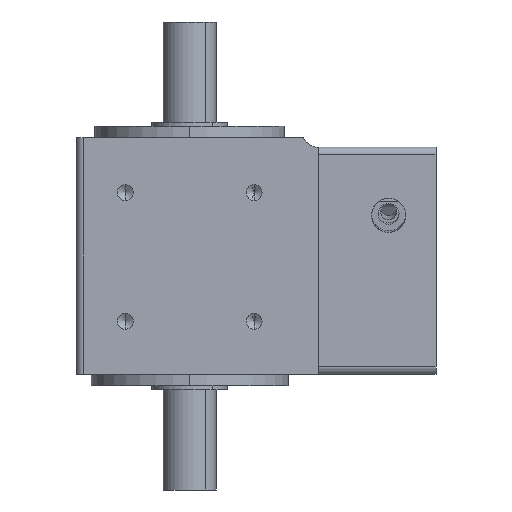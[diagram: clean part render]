
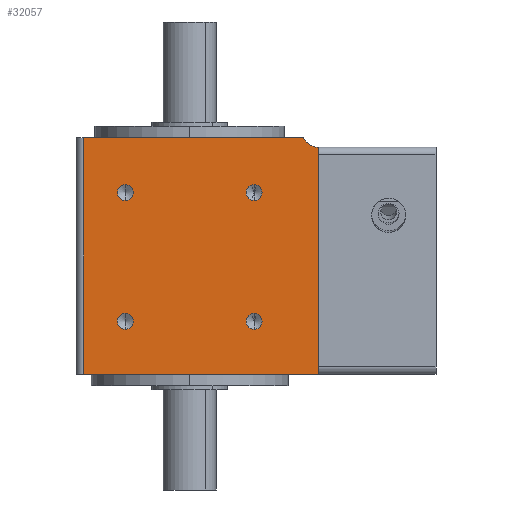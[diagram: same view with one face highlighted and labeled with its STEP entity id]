
A CAD part, left-side view. The second image highlights one B-rep face of the part: STEP entity #32057.
In plain terms, the highlighted planar face has unit normal (-1, 0, 0).
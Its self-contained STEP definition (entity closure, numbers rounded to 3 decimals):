
#348 = VERTEX_POINT ( 'NONE', #20655 ) ;
#402 = VERTEX_POINT ( 'NONE', #32576 ) ;
#962 = EDGE_CURVE ( 'NONE', #402, #20070, #8239, .T. ) ;
#1193 = AXIS2_PLACEMENT_3D ( 'NONE', #3548, #29157, #21533 ) ;
#1466 = CARTESIAN_POINT ( 'NONE',  ( -30., 19., 53.1 ) ) ;
#2154 = CIRCLE ( 'NONE', #29996, 2.1 ) ;
#2194 = AXIS2_PLACEMENT_3D ( 'NONE', #2747, #8307, #10788 ) ;
#2238 = CARTESIAN_POINT ( 'NONE',  ( -30., 30., 68.5 ) ) ;
#2747 = CARTESIAN_POINT ( 'NONE',  ( -30., 19., 51. ) ) ;
#2825 = EDGE_CURVE ( 'NONE', #3201, #402, #23136, .T. ) ;
#2901 = DIRECTION ( 'NONE',  ( -1., 0., 0. ) ) ;
#3201 = VERTEX_POINT ( 'NONE', #15580 ) ;
#3258 = CARTESIAN_POINT ( 'NONE',  ( -30., -32., 68.5 ) ) ;
#3548 = CARTESIAN_POINT ( 'NONE',  ( -30., -15., 51. ) ) ;
#3777 = CIRCLE ( 'NONE', #25892, 2.1 ) ;
#3857 = EDGE_LOOP ( 'NONE', ( #30196, #11687, #28612, #29146, #9713 ) ) ;
#4687 = CIRCLE ( 'NONE', #2194, 2.1 ) ;
#4966 = ORIENTED_EDGE ( 'NONE', *, *, #15903, .F. ) ;
#5030 = CARTESIAN_POINT ( 'NONE',  ( -30., 19., 17. ) ) ;
#5126 = CARTESIAN_POINT ( 'NONE',  ( -30., -15., 19.1 ) ) ;
#5142 = CIRCLE ( 'NONE', #27993, 2.1 ) ;
#5289 = DIRECTION ( 'NONE',  ( 0., 0., 1. ) ) ;
#5422 = EDGE_CURVE ( 'NONE', #6102, #20070, #7336, .T. ) ;
#6102 = VERTEX_POINT ( 'NONE', #20924 ) ;
#6581 = EDGE_CURVE ( 'NONE', #29265, #28868, #16638, .T. ) ;
#6787 = FACE_BOUND ( 'NONE', #15881, .T. ) ;
#7277 = ORIENTED_EDGE ( 'NONE', *, *, #11384, .F. ) ;
#7302 = VERTEX_POINT ( 'NONE', #30559 ) ;
#7336 = LINE ( 'NONE', #9903, #25151 ) ;
#7632 = FACE_OUTER_BOUND ( 'NONE', #3857, .T. ) ;
#8239 = CIRCLE ( 'NONE', #33346, 4.5 ) ;
#8266 = AXIS2_PLACEMENT_3D ( 'NONE', #26012, #2901, #5289 ) ;
#8307 = DIRECTION ( 'NONE',  ( -1., 0., 0. ) ) ;
#8400 = DIRECTION ( 'NONE',  ( 0., 0., 1. ) ) ;
#8499 = ORIENTED_EDGE ( 'NONE', *, *, #15942, .F. ) ;
#8559 = EDGE_CURVE ( 'NONE', #11605, #348, #32355, .T. ) ;
#9099 = EDGE_CURVE ( 'NONE', #3201, #16291, #31147, .T. ) ;
#9115 = EDGE_LOOP ( 'NONE', ( #28761, #17916 ) ) ;
#9713 = ORIENTED_EDGE ( 'NONE', *, *, #2825, .T. ) ;
#9903 = CARTESIAN_POINT ( 'NONE',  ( -30., 0., 65.5 ) ) ;
#9959 = DIRECTION ( 'NONE',  ( 0., 0., -1. ) ) ;
#9990 = CARTESIAN_POINT ( 'NONE',  ( -30., -15., 48.9 ) ) ;
#10634 = CARTESIAN_POINT ( 'NONE',  ( -30., 19., 51. ) ) ;
#10788 = DIRECTION ( 'NONE',  ( 0., 0., 1. ) ) ;
#11124 = DIRECTION ( 'NONE',  ( -1., 0., 0. ) ) ;
#11384 = EDGE_CURVE ( 'NONE', #15126, #7302, #5142, .T. ) ;
#11414 = CARTESIAN_POINT ( 'NONE',  ( -30., -27.944, 65.5 ) ) ;
#11605 = VERTEX_POINT ( 'NONE', #23954 ) ;
#11649 = FACE_BOUND ( 'NONE', #27270, .T. ) ;
#11687 = ORIENTED_EDGE ( 'NONE', *, *, #5422, .F. ) ;
#11728 = VECTOR ( 'NONE', #33464, 1000. ) ;
#12015 = AXIS2_PLACEMENT_3D ( 'NONE', #5030, #20054, #14989 ) ;
#12479 = DIRECTION ( 'NONE',  ( 0., -1., 0. ) ) ;
#12712 = EDGE_CURVE ( 'NONE', #7302, #15126, #4687, .T. ) ;
#13343 = DIRECTION ( 'NONE',  ( 0., 0., 1. ) ) ;
#13737 = CIRCLE ( 'NONE', #8266, 2.1 ) ;
#14510 = VECTOR ( 'NONE', #25900, 1000. ) ;
#14989 = DIRECTION ( 'NONE',  ( 0., 0., 1. ) ) ;
#15126 = VERTEX_POINT ( 'NONE', #1466 ) ;
#15580 = CARTESIAN_POINT ( 'NONE',  ( -30., -32., 3. ) ) ;
#15697 = EDGE_CURVE ( 'NONE', #348, #11605, #30939, .T. ) ;
#15881 = EDGE_LOOP ( 'NONE', ( #32500, #4966 ) ) ;
#15903 = EDGE_CURVE ( 'NONE', #28868, #29265, #3777, .T. ) ;
#15942 = EDGE_CURVE ( 'NONE', #18200, #23933, #2154, .T. ) ;
#16291 = VERTEX_POINT ( 'NONE', #31892 ) ;
#16638 = CIRCLE ( 'NONE', #1193, 2.1 ) ;
#17338 = DIRECTION ( 'NONE',  ( 1., 0., 0. ) ) ;
#17916 = ORIENTED_EDGE ( 'NONE', *, *, #8559, .F. ) ;
#18200 = VERTEX_POINT ( 'NONE', #5126 ) ;
#18509 = DIRECTION ( 'NONE',  ( -1., 0., 0. ) ) ;
#18589 = LINE ( 'NONE', #2238, #11728 ) ;
#19923 = DIRECTION ( 'NONE',  ( 0., 0., 1. ) ) ;
#20054 = DIRECTION ( 'NONE',  ( -1., 0., 0. ) ) ;
#20070 = VERTEX_POINT ( 'NONE', #11414 ) ;
#20616 = ORIENTED_EDGE ( 'NONE', *, *, #12712, .F. ) ;
#20655 = CARTESIAN_POINT ( 'NONE',  ( -30., 19., 19.1 ) ) ;
#20808 = EDGE_LOOP ( 'NONE', ( #8499, #22771 ) ) ;
#20924 = CARTESIAN_POINT ( 'NONE',  ( -30., 30., 65.5 ) ) ;
#21268 = CARTESIAN_POINT ( 'NONE',  ( -30., -15., 53.1 ) ) ;
#21533 = DIRECTION ( 'NONE',  ( 0., 0., 1. ) ) ;
#21629 = DIRECTION ( 'NONE',  ( 0., 0., 1. ) ) ;
#21810 = CARTESIAN_POINT ( 'NONE',  ( -30., 19., 17. ) ) ;
#22744 = VECTOR ( 'NONE', #13343, 1000. ) ;
#22771 = ORIENTED_EDGE ( 'NONE', *, *, #23450, .F. ) ;
#22843 = CARTESIAN_POINT ( 'NONE',  ( -30., -15., 14.9 ) ) ;
#23136 = LINE ( 'NONE', #3258, #22744 ) ;
#23303 = EDGE_CURVE ( 'NONE', #16291, #6102, #18589, .T. ) ;
#23450 = EDGE_CURVE ( 'NONE', #23933, #18200, #13737, .T. ) ;
#23686 = DIRECTION ( 'NONE',  ( 0., 0., 1. ) ) ;
#23908 = DIRECTION ( 'NONE',  ( -1., 0., 0. ) ) ;
#23933 = VERTEX_POINT ( 'NONE', #22843 ) ;
#23954 = CARTESIAN_POINT ( 'NONE',  ( -30., 19., 14.9 ) ) ;
#24205 = FACE_BOUND ( 'NONE', #20808, .T. ) ;
#25151 = VECTOR ( 'NONE', #12479, 1000. ) ;
#25654 = CARTESIAN_POINT ( 'NONE',  ( -30., -32., 68.5 ) ) ;
#25892 = AXIS2_PLACEMENT_3D ( 'NONE', #26416, #23908, #23686 ) ;
#25900 = DIRECTION ( 'NONE',  ( 0., 1., 0. ) ) ;
#26012 = CARTESIAN_POINT ( 'NONE',  ( -30., -15., 17. ) ) ;
#26136 = DIRECTION ( 'NONE',  ( 0., 0., 1. ) ) ;
#26416 = CARTESIAN_POINT ( 'NONE',  ( -30., -15., 51. ) ) ;
#27270 = EDGE_LOOP ( 'NONE', ( #7277, #20616 ) ) ;
#27939 = AXIS2_PLACEMENT_3D ( 'NONE', #21810, #29532, #8400 ) ;
#27993 = AXIS2_PLACEMENT_3D ( 'NONE', #10634, #18509, #26136 ) ;
#28202 = AXIS2_PLACEMENT_3D ( 'NONE', #25654, #31077, #9959 ) ;
#28278 = CARTESIAN_POINT ( 'NONE',  ( -30., 0., 3. ) ) ;
#28612 = ORIENTED_EDGE ( 'NONE', *, *, #23303, .F. ) ;
#28761 = ORIENTED_EDGE ( 'NONE', *, *, #15697, .F. ) ;
#28868 = VERTEX_POINT ( 'NONE', #9990 ) ;
#29146 = ORIENTED_EDGE ( 'NONE', *, *, #9099, .F. ) ;
#29157 = DIRECTION ( 'NONE',  ( -1., 0., 0. ) ) ;
#29265 = VERTEX_POINT ( 'NONE', #21268 ) ;
#29532 = DIRECTION ( 'NONE',  ( -1., 0., 0. ) ) ;
#29996 = AXIS2_PLACEMENT_3D ( 'NONE', #31591, #11124, #21629 ) ;
#30196 = ORIENTED_EDGE ( 'NONE', *, *, #962, .T. ) ;
#30559 = CARTESIAN_POINT ( 'NONE',  ( -30., 19., 48.9 ) ) ;
#30939 = CIRCLE ( 'NONE', #12015, 2.1 ) ;
#31077 = DIRECTION ( 'NONE',  ( 1., 0., 0. ) ) ;
#31147 = LINE ( 'NONE', #28278, #14510 ) ;
#31591 = CARTESIAN_POINT ( 'NONE',  ( -30., -15., 17. ) ) ;
#31892 = CARTESIAN_POINT ( 'NONE',  ( -30., 30., 3. ) ) ;
#32057 = ADVANCED_FACE ( 'NONE', ( #7632, #24205, #32281, #11649, #6787 ), #33227, .F. ) ;
#32281 = FACE_BOUND ( 'NONE', #9115, .T. ) ;
#32355 = CIRCLE ( 'NONE', #27939, 2.1 ) ;
#32500 = ORIENTED_EDGE ( 'NONE', *, *, #6581, .F. ) ;
#32576 = CARTESIAN_POINT ( 'NONE',  ( -30., -32., 62.95 ) ) ;
#32850 = CARTESIAN_POINT ( 'NONE',  ( -30., -32., 67.45 ) ) ;
#33227 = PLANE ( 'NONE',  #28202 ) ;
#33346 = AXIS2_PLACEMENT_3D ( 'NONE', #32850, #17338, #19923 ) ;
#33464 = DIRECTION ( 'NONE',  ( 0., 0., 1. ) ) ;
